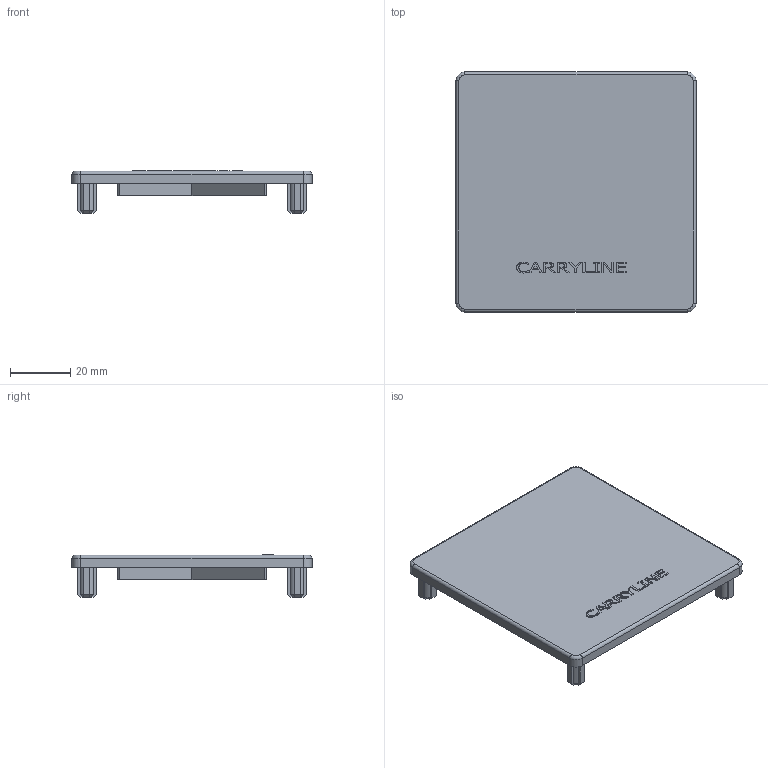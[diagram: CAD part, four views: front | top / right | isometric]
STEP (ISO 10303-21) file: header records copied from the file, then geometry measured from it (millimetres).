
FILE_DESCRIPTION((''),'2;1');
FILE_NAME('X:\Ritarkiv\STEP-Carryline Standarddelar\100-2030.stp','2009-11-09T07:50:29',('marcus'),(''),'Autodesk Inventor 2010','Autodesk Inventor 2010','');
FILE_SCHEMA(('AUTOMOTIVE_DESIGN { 1 0 10303 214 1 1 1 1 }'));
Length unit declared in the file: millimetre
Products named in the file (1): 100-2030
Bounding box: 80 x 80 x 14.2 mm (x, y, z)
Volume: 27052.8 mm3; surface area: 15927.9 mm2
Topology: 1 solids, 1 shells, 259 faces, 712 edges, 472 vertices
Faces by surface type: plane 185, bspline 30, cylinder 24, cone 16, torus 4
Entity records: 8392 total; most frequent: CARTESIAN_POINT 1988, ORIENTED_EDGE 1424, DIRECTION 1148, EDGE_CURVE 712, VECTOR 552, LINE 552, VERTEX_POINT 472, AXIS2_PLACEMENT_3D 298
